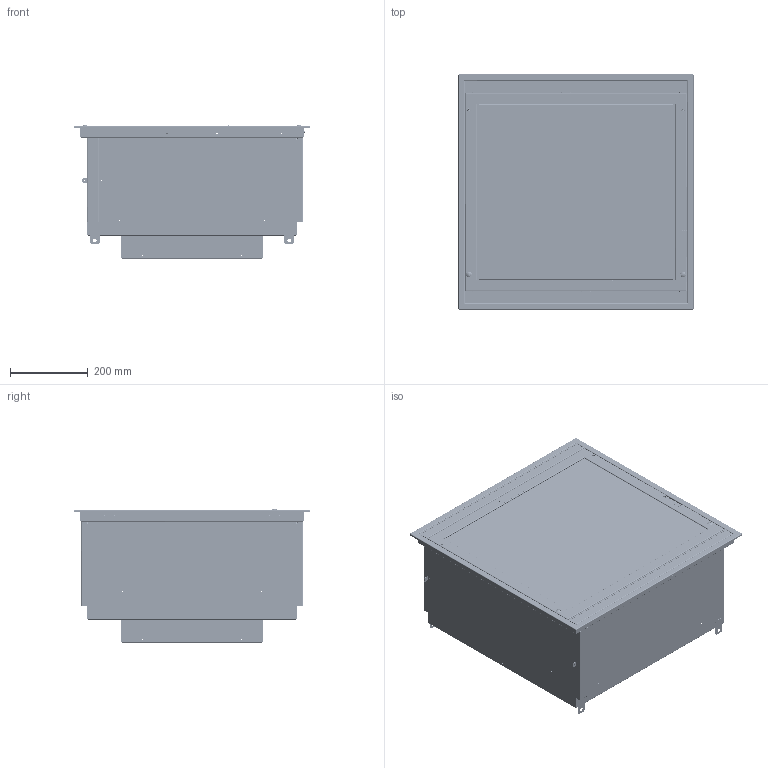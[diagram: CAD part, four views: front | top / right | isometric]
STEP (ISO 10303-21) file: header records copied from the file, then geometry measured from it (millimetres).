
FILE_DESCRIPTION (( 'STEP AP203' ), '1' );
FILE_NAME ('24 x 24_SSLFHFD-FFU_LED.STEP', '2025-09-05T15:34:24', ( '' ), ( '' ), 'SwSTEP 2.0', 'SolidWorks 2024', '' );
FILE_SCHEMA (( 'CONFIG_CONTROL_DESIGN' ));
Length unit declared in the file: inch
Products named in the file (56): 090425-FFUs4STEP_P1B1B-SUB_L05; 090425-FFUs4STEP_H1V20_L05; 090425-FFUs4STEP_H1B9_L05; 090425-FFUs4STEP_FC3E-A_L05; 090425-FFUs4STEP_SAFETYCABLEASSEMBLY_L05; 090425-FFUs4STEP_H2E2_L05_WELD CLIP, BOB FRAME; 090425-FFUs4STEP_H1W37_L05; 090425-FFUs4STEP_H2E12_L05_CLIP, HEPA FILTER, SWING ARM; 090425-FFUs4STEP_H2E5_L05; 090425-FFUs4STEP_H1D11_L05_91020A530; 090425-FFUs4STEP_PERF-SUB_L05; 090425-FFUs4STEP_H1V18_L05; 090425-FFUs4STEP_H1V10_L05_GROMMET - 0.387"ID; 1_2"HOLE; BLACK; 090425-FFUs4STEP_X4CM_L05; 090425-FFUs4STEP_X6B2_L05; 090425-FFUs4STEP_H1C28_L05; 090425-FFUs4STEP_FC3E-A1_L05; 090425-FFUs4STEP_H1Z4_L05; 090425-FFUs4STEP_FP1B20-A3_L05; 090425-FFUs4STEP_X6BA1_L05; 090425-FFUs4STEP_FC3E-A3_L05; 090425-FFUs4STEP_R2C1_L05; 090425-FFUs4STEP_PLASTER-SUB_L05; 090425-FFUs4STEP_H1E3_L05; 090425-FFUs4STEP_FP1B20-A1_L05; 090425-FFUs4STEP_FACE-SUB_L05; 090425-FFUs4STEP_H2E1_L05_WELD CLIP; 40º BEVEL FRAME; 090425-FFUs4STEP_X4CP_L05; 090425-FFUs4STEP_H1E1_L05; 090425-FFUs4STEP_H1F1_L05_1_4 TURN SPRING; 090425-FFUs4STEP_PLENUM-SUB_L05; 090425-FFUs4STEP_FP1B20-A4_L05; 090425-FFUs4STEP_X6BB_L05; 090425-FFUs4STEP_FP1B20-A2_L05; 090425-FFUs4STEP_H1E2_L05; 090425-FFUs4STEP_X6BE_L05; 090425-FFUs4STEP_H1M8_L05_H1M8; 090425-FFUs4STEP_H1N2_L05; 090425-FFUs4STEP_Inlet Ring-SUB_L05; 090425-FFUs4STEP_H2E11_L05_GUIDE, HEPA FILTER, SWING ARM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
Assembly tree (111 placements, depth 5):
  24 x 24_SSLFHFD-FFU_LED
    090425-FFUs4STEP_PLASTER-SUB_L05
      090425-FFUs4STEP_FC3E-A_L05
        090425-FFUs4STEP_FC3E-A1_L05
        090425-FFUs4STEP_FC3E-A2_L05
        090425-FFUs4STEP_FC3E-A3_L05
        090425-FFUs4STEP_FC3E-A4_L05
        090425-FFUs4STEP_H2E2_L05_WELD CLIP, BOB FRAME  x4
        090425-FFUs4STEP_H2G12_L05  x4
        090425-FFUs4STEP_H1F1_L05_1_4 TURN SPRING  x4
        090425-FFUs4STEP_H2E11_L05_GUIDE, HEPA FILTER, SWING ARM  x4
        090425-FFUs4STEP_H2E12_L05_CLIP, HEPA FILTER, SWING ARM  x4
        090425-FFUs4STEP_H1V31_L05_WASHER, TEFLON: 0.50"OD x 0.25"ID x 0.025"th  x4
        090425-FFUs4STEP_FACE Display-SUB_L05
          090425-FFUs4STEP_X4CM_L05
          090425-FFUs4STEP_H1W37_L05
          090425-FFUs4STEP_H1D11_L05_91020A530  x2
        090425-FFUs4STEP_H1V18_L05
      090425-FFUs4STEP_H1V20_L05  x2
      090425-FFUs4STEP_X6BD_L05  x2
      090425-FFUs4STEP_H1V10_L05_GROMMET - 0.387"ID; 1_2"HOLE; BLACK  x2
      090425-FFUs4STEP_Light Module-SUB_L05  x2
        090425-FFUs4STEP_X6BA1_L05
        090425-FFUs4STEP_X6BB_L05
        090425-FFUs4STEP_R5Z11_L05
        090425-FFUs4STEP_H1M8_L05_H1M8
        090425-FFUs4STEP_H1B9_L05
        090425-FFUs4STEP_H1D11_L05_91020A530
        090425-FFUs4STEP_X6B2_L05
        090425-FFUs4STEP_H1H44_L05
    090425-FFUs4STEP_FACE-SUB_L05
      090425-FFUs4STEP_FP1B20_L05
        090425-FFUs4STEP_FP1B20-A1_L05
        090425-FFUs4STEP_FP1B20-A2_L05
        090425-FFUs4STEP_FP1B20-A3_L05
        090425-FFUs4STEP_FP1B20-A4_L05
        090425-FFUs4STEP_H2E1_L05_WELD CLIP; 40º BEVEL FRAME  x4
        090425-FFUs4STEP_H1E2_L05  x4
        090425-FFUs4STEP_SAFETYCABLEASSEMBLY_L05  x2
          090425-FFUs4STEP_H1N2_L05
          090425-FFUs4STEP_H1E3_L05
        090425-FFUs4STEP_H1E1_L05  x2
        090425-FFUs4STEP_H1Z24_L05
    090425-FFUs4STEP_PERF-SUB_L05
      090425-FFUs4STEP_R2C1-SUB_L05
        090425-FFUs4STEP_R2C1_L05
    090425-FFUs4STEP_PLENUM-SUB_L05
      090425-FFUs4STEP_P1B1B-SUB_L05
        090425-FFUs4STEP_P1B1B_L05
        090425-FFUs4STEP_H2E5_L05  x4
        090425-FFUs4STEP_X6BE_L05  x3
        090425-FFUs4STEP_H1B8_L05_NUTSERT, 1_4-20 X .58 SS; HEX BODY  x8
        090425-FFUs4STEP_Inlet Ring-SUB_L05
          090425-FFUs4STEP_X4CP_L05
          090425-FFUs4STEP_H1C28_L05
        090425-FFUs4STEP_H1Z4_L05  x2
        090425-FFUs4STEP_H1Z5_L05
        090425-FFUs4STEP_H1V18_L05
Bounding box: 603.25 x 603.25 x 344.25 mm (x, y, z)
Volume: 1687573.5 mm3; surface area: 3828421.6 mm2
Topology: 138 solids, 202 shells, 8337 faces, 22210 edges, 14496 vertices
Faces by surface type: plane 4424, cylinder 2439, cone 686, torus 488, bspline 276, sphere 24
Entity records: 162678 total; most frequent: CARTESIAN_POINT 41084, DIRECTION 23081, ORIENTED_EDGE 22884, EDGE_CURVE 12419, VERTEX_POINT 8403, VECTOR 8211, LINE 8211, AXIS2_PLACEMENT_3D 7435
